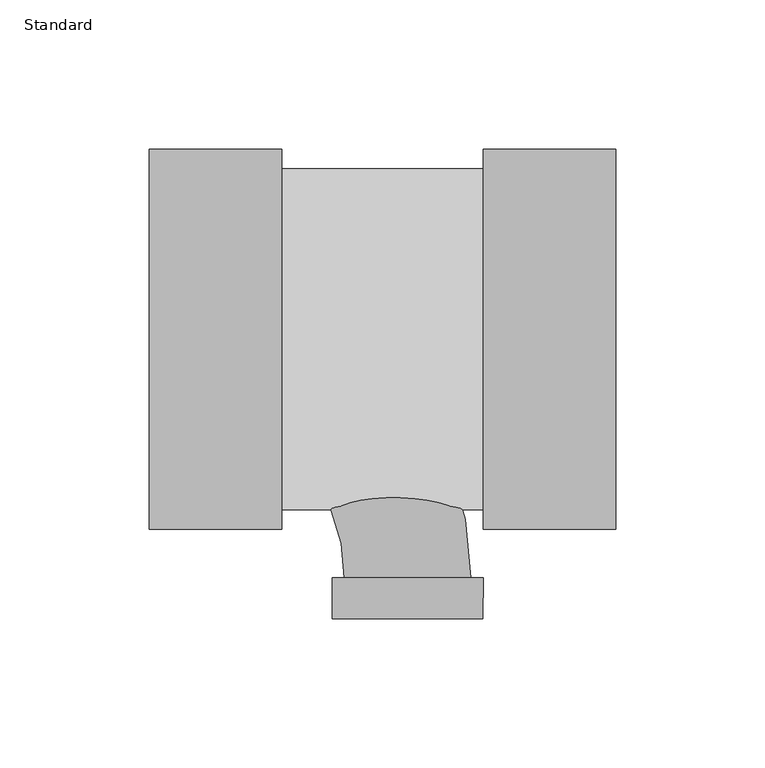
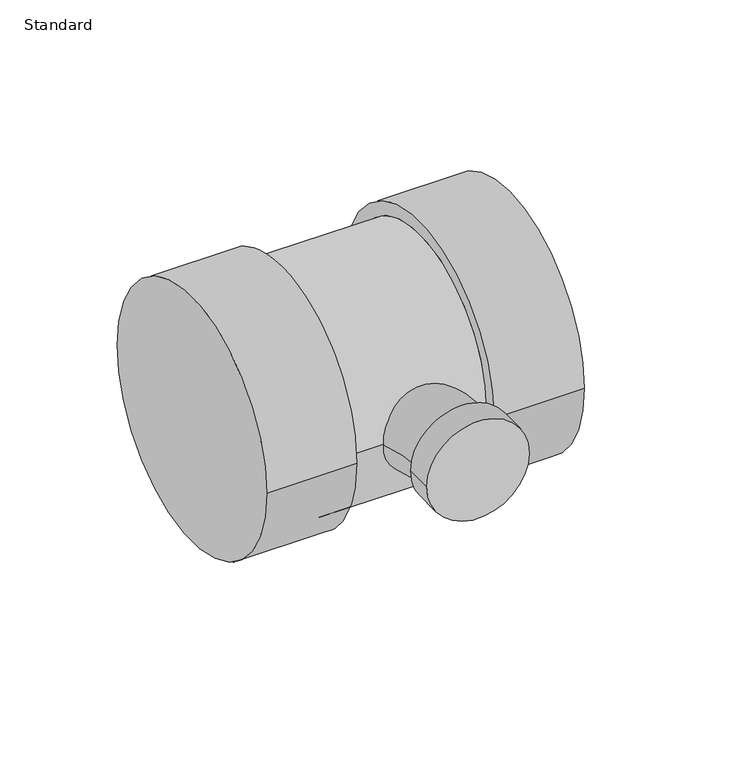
"""IFC4 building model written with IfcOpenShell, lengths in millimetres: pipe fitting geometry, EG-RCAN Té sanitaire de réduction - PVC - Nom. 40 - DWV : Standard."""

from ifc_helpers import new_model, si_unit, point, frame, origin, place, context, project, spatial, circle_curve, ellipse_curve, trimmed, source, transform, mapped, element, save
from ifc_brep_helpers import plane_surface, cylinder_surface, revolved_surface, advanced_brep


def standard_fb7d58a2(model_context):
    return source(origin(), model_context, "Body", "AdvancedBrep", [
        advanced_brep(
        [(25.1050374, -63.754, 0.0), (25.1050374, 63.754, 0.0), (25.1050374, -57.15, 0.0), (25.1050374, 57.15, 0.0), (69.5550374, -63.754, 0.0), (69.5550374, 63.754, 0.0), (-42.4599062, 57.15, 0.0), (-42.4599062, -57.15, 0.0), (-86.9099063, -63.754, 0.0), (-86.9099062, 63.754, 0.0), (-42.4599063, -63.754, 0.0), (-42.4599062, 63.754, 0.0)],
        [
            (0, 1, circle_curve(frame((25.1050374, 0.0, 0.0), z_axis=(-1.0, 0.0, 0.0), x_axis=(0.0, 1.0, 0.0)), 63.754)),
            (1, 0, circle_curve(frame((25.1050374, 0.0, 0.0), z_axis=(-1.0, 0.0, 0.0), x_axis=(0.0, 1.0, 0.0)), 63.754)),
            (2, 3, circle_curve(frame((25.1050374, 0.0, 0.0), z_axis=(1.0, 0.0, 0.0), x_axis=(0.0, 0.0, -1.0)), 57.15)),
            (3, 2, circle_curve(frame((25.1050374, 0.0, 0.0), z_axis=(1.0, 0.0, 0.0), x_axis=(0.0, 0.0, 1.0)), 57.15)),
            (4, 5, circle_curve(frame((69.5550374, 0.0, 0.0), z_axis=(1.0, 0.0, 0.0), x_axis=(0.0, 1.0, 0.0)), 63.754)),
            (5, 4, circle_curve(frame((69.5550374, 0.0, 0.0), z_axis=(1.0, 0.0, 0.0), x_axis=(0.0, 1.0, 0.0)), 63.754)),
            (0, 4),
            (5, 1),
            (6, 3),
            (2, 7),
            (7, 6, circle_curve(frame((-42.4599063, 0.0, 0.0), z_axis=(1.0, 0.0, 0.0), x_axis=(0.0, 0.0, -1.0)), 57.15)),
            (6, 7, circle_curve(frame((-42.4599062, 0.0, 0.0), z_axis=(1.0, 0.0, 0.0), x_axis=(0.0, 0.0, 1.0)), 57.15)),
            (8, 9, circle_curve(frame((-86.9099062, 0.0, 0.0), z_axis=(-1.0, 0.0, 0.0), x_axis=(0.0, 1.0, 0.0)), 63.754)),
            (9, 8, circle_curve(frame((-86.9099062, 0.0, 0.0), z_axis=(-1.0, 0.0, 0.0), x_axis=(0.0, 1.0, 0.0)), 63.754)),
            (10, 11, circle_curve(frame((-42.4599062, 0.0, 0.0), z_axis=(1.0, 0.0, 0.0), x_axis=(0.0, 1.0, 0.0)), 63.754)),
            (11, 10, circle_curve(frame((-42.4599062, 0.0, 0.0), z_axis=(1.0, 0.0, 0.0), x_axis=(0.0, 1.0, 0.0)), 63.754)),
            (8, 10),
            (11, 9),
        ],
        [
            plane_surface(frame((25.1050374, 0.0, 0.0), z_axis=(-1.0, 0.0, 0.0), x_axis=(0.0, 0.0, 1.0))),
            plane_surface(frame((69.5550374, 0.0, 0.0), z_axis=(1.0, 0.0, 0.0), x_axis=(0.0, 0.0, 1.0))),
            cylinder_surface(frame((25.1050374, 0.0, 0.0), z_axis=(-1.0, 0.0, 0.0), x_axis=(0.0, 1.0, 0.0)), 63.754),
            cylinder_surface(frame((-42.4599062, 0.0, 0.0), z_axis=(1.0, 0.0, 0.0), x_axis=(0.0, 0.0, -1.0)), 57.15),
            cylinder_surface(frame((-42.4599062, 0.0, 0.0), z_axis=(1.0, 0.0, 0.0), x_axis=(0.0, 0.0, 1.0)), 57.15),
            plane_surface(frame((-86.9099062, 0.0, 0.0), z_axis=(-1.0, 0.0, 0.0), x_axis=(0.0, 0.0, 1.0))),
            plane_surface(frame((-42.4599062, 0.0, 0.0), z_axis=(1.0, 0.0, 0.0), x_axis=(0.0, 0.0, 1.0))),
            cylinder_surface(frame((-86.9099062, 0.0, 0.0), z_axis=(-1.0, 0.0, 0.0), x_axis=(0.0, 1.0, 0.0)), 63.754),
        ],
        [
            (0, [[1, 2], [3, 4]]),
            (1, [[5, 6]]),
            (2, [[-1, 7, -6, 8]]),
            (2, [[-2, -8, -5, -7]]),
            (3, [[9, -3, 10, 11]]),
            (4, [[-9, 12, -10, -4]]),
            (5, [[13, 14]]),
            (6, [[15, 16], [-11, -12]]),
            (7, [[-13, 17, -16, 18]]),
            (7, [[-14, -18, -15, -17]]),
        ],
    ),
        advanced_brep(
        [(-25.4290778, -79.9763376, 0.0), (25.1050374, -80.0786468, 0.0), (21.0419988, -80.070421, 0.0), (-21.3660392, -79.9845635, 0.0), (-25.4568958, -93.716622, 0.0), (25.0772194, -93.8189312, 0.0), (-80.0276562, -21.2040625, 0.0), (-80.0276562, 21.2040625, 0.0)],
        [
            (0, 1, circle_curve(frame((-0.1620202, -80.0274922, 0.0), z_axis=(0.002024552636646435, 0.9999979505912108, 0.0), x_axis=(0.9999979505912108, -0.002024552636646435, 0.0)), 25.2671094)),
            (1, 0, circle_curve(frame((-0.1620202, -80.0274922, 0.0), z_axis=(0.002024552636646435, 0.9999979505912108, 0.0), x_axis=(0.9999979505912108, -0.002024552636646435, 0.0)), 25.2671094)),
            (2, 3, circle_curve(frame((-0.1620202, -80.0274922, 0.0), z_axis=(-0.002024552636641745, -0.9999979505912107, 0.0), x_axis=(0.9999979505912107, -0.002024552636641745, 0.0)), 21.2040625)),
            (3, 2, circle_curve(frame((-0.1620202, -80.0274922, 0.0), z_axis=(-0.002024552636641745, -0.9999979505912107, 0.0), x_axis=(0.9999979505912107, -0.002024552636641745, 0.0)), 21.2040625)),
            (4, 5, circle_curve(frame((-0.1898382, -93.7677766, 0.0), z_axis=(-0.002024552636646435, -0.9999979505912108, 0.0), x_axis=(0.9999979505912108, -0.002024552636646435, 0.0)), 25.2671094)),
            (5, 4, circle_curve(frame((-0.1898382, -93.7677766, 0.0), z_axis=(-0.002024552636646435, -0.9999979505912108, 0.0), x_axis=(0.9999979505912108, -0.002024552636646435, 0.0)), 25.2671094)),
            (0, 4),
            (5, 1),
            (6, 7, circle_curve(frame((-80.0276562, 0.0, 0.0), z_axis=(-1.0, 0.0, 0.0), x_axis=(0.0, 1.0, 0.0)), 21.2040625)),
            (7, 6, circle_curve(frame((-80.0276562, 0.0, 0.0), z_axis=(-1.0, 0.0, 0.0), x_axis=(0.0, 1.0, 0.0)), 21.2040625)),
            (6, 3, circle_curve(frame((-80.0276562, -79.8657997, 0.0), z_axis=(0.0, 0.0, -1.0), x_axis=(0.0, 1.0, 0.0)), 58.6617372)),
            (2, 7, circle_curve(frame((-80.0276562, -79.8657997, 0.0), z_axis=(0.0, 0.0, 1.0), x_axis=(0.0, 1.0, 0.0)), 101.0698622)),
        ],
        [
            plane_surface(frame((-0.1620202, -80.0274922, 0.0), z_axis=(0.002024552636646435, 0.9999979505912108, 0.0), x_axis=(0.0, 0.0, 1.0))),
            plane_surface(frame((-0.1898382, -93.7677766, 0.0), z_axis=(-0.002024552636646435, -0.9999979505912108, 0.0), x_axis=(0.0, 0.0, 1.0))),
            cylinder_surface(frame((-0.1620202, -80.0274922, 0.0), z_axis=(0.002024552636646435, 0.9999979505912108, 0.0), x_axis=(0.9999979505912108, -0.002024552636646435, 0.0)), 25.2671094),
            plane_surface(frame((-80.0276562, 0.0, 0.0), z_axis=(-1.0, 0.0, 0.0), x_axis=(0.0, 0.0, 1.0))),
            revolved_surface(trimmed(ellipse_curve(frame((-80.0276562, 0.0, 0.0), z_axis=(-1.0, 0.0, 0.0), x_axis=(0.0, 1.0, 0.0)), 21.2040625, 21.2040625), [point((-80.0276562, -21.2040625, 0.0))], [point((-80.0276562, 21.2040625, 0.0))], True, "CARTESIAN"), (-80.0276562, -79.8657997, 0.0), (0.0, 0.0, -1.0)),
            revolved_surface(trimmed(ellipse_curve(frame((-80.0276562, 0.0, 0.0), z_axis=(-1.0, 0.0, 0.0), x_axis=(0.0, 1.0, 0.0)), 21.2040625, 21.2040625), [point((-80.0276562, 21.2040625, 0.0))], [point((-80.0276562, -21.2040625, 0.0))], True, "CARTESIAN"), (-80.0276562, -79.8657997, 0.0), (0.0, 0.0, -1.0)),
        ],
        [
            (0, [[1, 2], [3, 4]]),
            (1, [[5, 6]]),
            (2, [[-1, 7, -6, 8]]),
            (2, [[-2, -8, -5, -7]]),
            (3, [[9, 10]]),
            (4, [[-9, 11, -3, 12]]),
            (5, [[-10, -12, -4, -11]]),
        ],
    ),
    ])


if __name__ == "__main__":
    model = new_model("IFC4")
    model_context = context("Model", 3, world=origin())
    ifc_project = project(units=[si_unit("LENGTHUNIT", "METRE", prefix="MILLI")], contexts=[model_context])
    site = spatial("IfcSite", under=ifc_project)
    building = spatial("IfcBuilding", under=site)
    placement = place(None, origin())
    standard_shape = standard_fb7d58a2(model_context)
    element("IfcPipeFitting", 1, ObjectType="EG-RCAN Té sanitaire de réduction - PVC - Nom. 40 - DWV : Standard", at=placement, inside=building, context=model_context, shape_type="MappedRepresentation", body=[
        mapped(standard_shape, transform((0.0, 0.0, 0.0), x_axis=(1.0, 0.0, 0.0), y_axis=(0.0, 1.0, 0.0), z_axis=(0.0, 0.0, 1.0))),
    ])
    save(model, "model.ifc")
